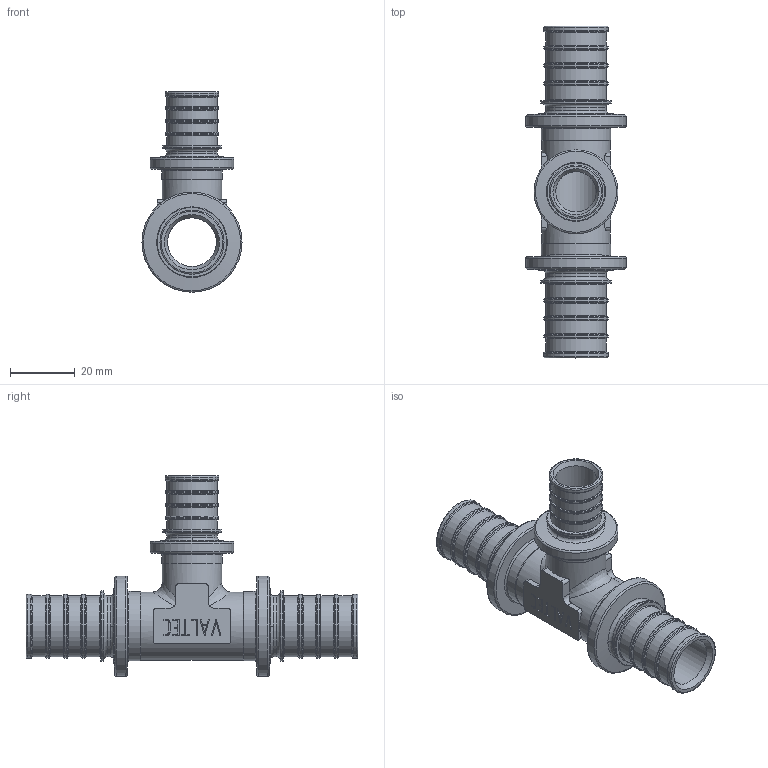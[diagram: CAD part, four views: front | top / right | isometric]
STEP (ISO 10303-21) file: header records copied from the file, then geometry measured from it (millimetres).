
FILE_DESCRIPTION(('STEP AP203'), '1');
FILE_NAME('覆.752241.017 - VTm.431.G.252025 秮鍣. 縺鳱', '', ('UNSPECIFIED'), ('UNSPECIFIED'), 'C3D Converter', 'C3D Toolkit', '');
FILE_SCHEMA(('CONFIG_CONTROL_DESIGN'));
Length unit declared in the file: millimetre
Products named in the file (1): ВР.752241.017
Bounding box: 30.9 x 102.4 x 61.85 mm (x, y, z)
Volume: 22756.3 mm3; surface area: 18115.3 mm2
Topology: 1 solids, 1 shells, 404 faces, 1037 edges, 661 vertices
Faces by surface type: extrusion 142, plane 127, torus 68, cylinder 56, cone 9, bspline 2
Full cylindrical faces by diameter (mm): 12.5 x1, 15 x1, 15.7 x5, 16.5 x4, 18.2 x1, 18.3 x1, 18.7 x1, 18.8 x10, 19.8 x8, 21 x1, 21.4 x2, 21.8 x2, 25.9 x1, 30.9 x2
Entity records: 16093 total; most frequent: CARTESIAN_POINT 3987, ORIENTED_EDGE 1842, DIRECTION 1438, EDGE_CURVE 921, VERTEX_POINT 657, VECTOR 582, EDGE_LOOP 546, B_SPLINE_CURVE_WITH_KNOTS 455
